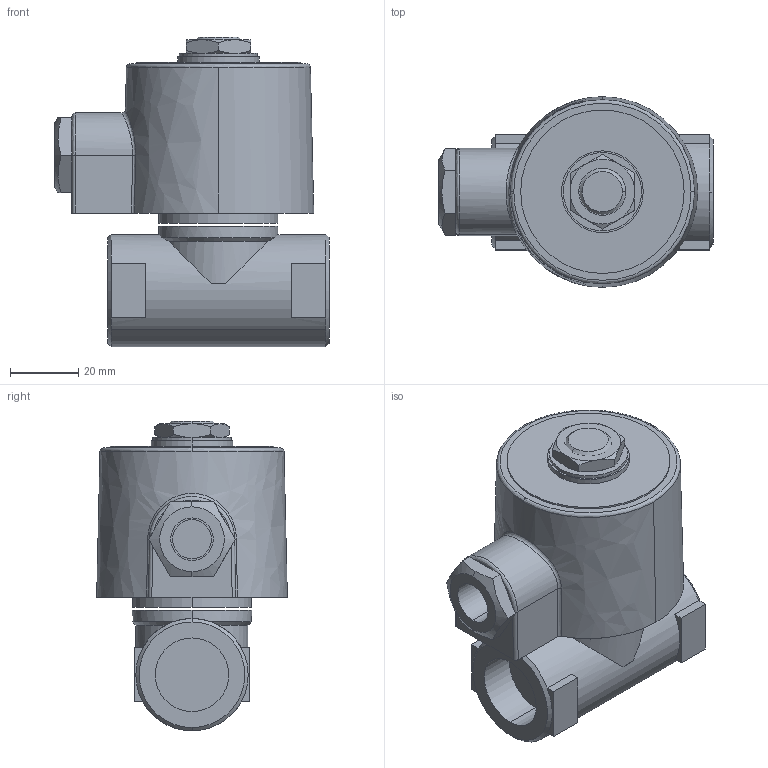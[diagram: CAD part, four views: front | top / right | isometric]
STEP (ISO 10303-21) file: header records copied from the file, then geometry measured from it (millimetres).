
FILE_DESCRIPTION( (''), '2;1');
FILE_NAME ('PC1027.5908.DD-3 20A 3D_25257.stp','2025-07-28T17:54:48',(''),(''),'spGate 19.8.4 (****-****-****-****)','','');
FILE_SCHEMA (('AUTOMOTIVE_DESIGN'));
Length unit declared in the file: millimetre
Products named in the file (5): Assembly; benbako20A; pipe; ACコイル10A; ACコイル10A部品
Assembly tree (4 placements, depth 2):
  Assembly
    benbako20A
    pipe
    ACコイル10A
    ACコイル10A部品
Bounding box: 80.5 x 56 x 91 mm (x, y, z)
Volume: 174925.4 mm3; surface area: 37624.9 mm2
Topology: 4 solids, 4 shells, 136 faces, 308 edges, 192 vertices
Faces by surface type: plane 65, bspline 38, cylinder 33
Entity records: 7118 total; most frequent: CARTESIAN_POINT 1675, ORIENTED_EDGE 616, DIRECTION 539, COLOUR_RGB 448, PRESENTATION_STYLE_ASSIGNMENT 448, STYLED_ITEM 448, EDGE_CURVE 308, DRAUGHTING_PRE_DEFINED_CURVE_FONT 308
